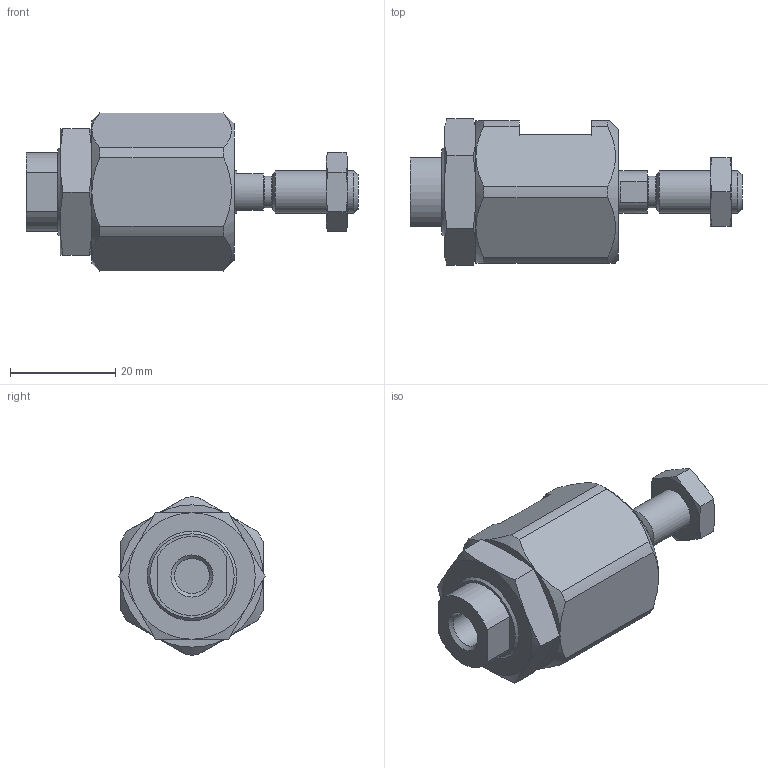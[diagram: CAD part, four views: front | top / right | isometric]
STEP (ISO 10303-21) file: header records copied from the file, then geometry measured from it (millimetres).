
FILE_DESCRIPTION( ( 'STEP AP203' ), '1' );
FILE_NAME( 'C:/Temp/Ganter_Step_05_03_2020/data/3_6/gn240_2/Rapid plug-in coupling GN 240.2-M8 (0).stp', '2020-03-12T14:08:21', ( 'License CC BY-ND 4.0' ), ( 'CADENAS' ), ' ', 'PARTsolutions', ' ' );
FILE_SCHEMA( ( 'CONFIG_CONTROL_DESIGN' ) );
Length unit declared in the file: millimetre
Products named in the file (4): Rapid plug-in coupling GN 240.2-M8 (0); _Rapid plug-in coupling GN 240.2-M8 (0)-1; _Rapid plug-in coupling GN 240.2-M8 (0)-5; _Rapid plug-in coupling GN 240.2-M8 (0)-4
Assembly tree (3 placements, depth 2):
  Rapid plug-in coupling GN 240.2-M8 (0)
    _Rapid plug-in coupling GN 240.2-M8 (0)-1
    _Rapid plug-in coupling GN 240.2-M8 (0)-5
    _Rapid plug-in coupling GN 240.2-M8 (0)-4
Bounding box: 63 x 27.71 x 29.99 mm (x, y, z)
Volume: 18326.7 mm3; surface area: 8224.9 mm2
Topology: 3 solids, 3 shells, 107 faces, 241 edges, 148 vertices
Faces by surface type: plane 46, cone 39, cylinder 19, torus 2, sphere 1
Full cylindrical faces by diameter (mm): 6 x1, 6.647 x2, 8 x2, 16.5 x2
Entity records: 3228 total; most frequent: CARTESIAN_POINT 851, DIRECTION 459, ORIENTED_EDGE 442, EDGE_CURVE 221, AXIS2_PLACEMENT_3D 196, VERTEX_POINT 146, EDGE_LOOP 137, FACE_OUTER_BOUND 117
